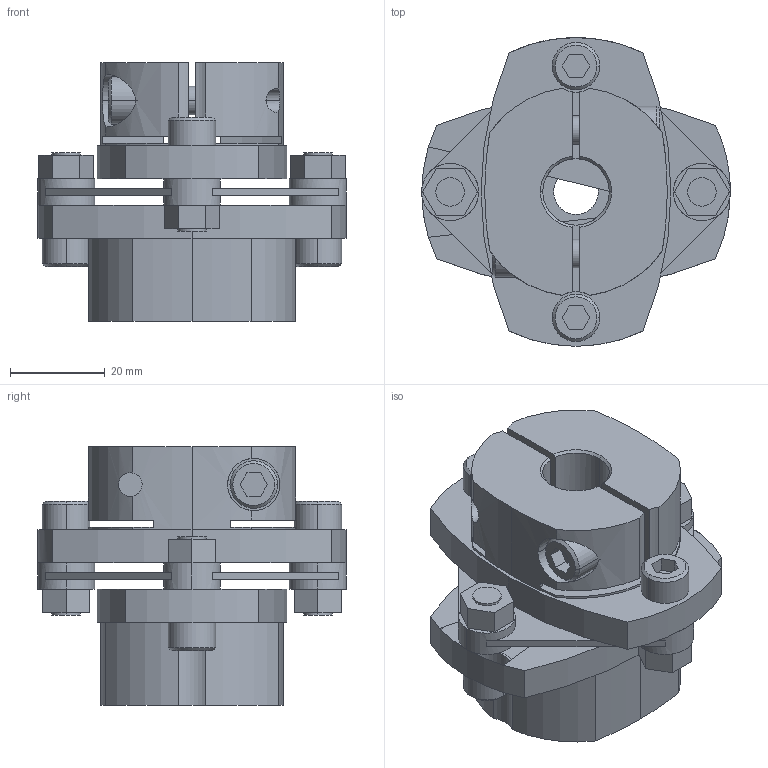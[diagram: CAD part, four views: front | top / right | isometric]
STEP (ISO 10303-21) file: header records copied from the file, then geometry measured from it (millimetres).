
FILE_DESCRIPTION((''),'2;1');
FILE_NAME('LCS-65M-11L亊14B.stp','2011-08-20T15:45:29',(''),(''),'AutoCAD STEP 2000i','AutoCAD 2000i',', , ');
FILE_SCHEMA(('CONFIG_CONTROL_DESIGN'));
Length unit declared in the file: millimetre
Products named in the file (6): LCS-65M-11L×14B; 忣兜1; LC65M-L011; LC65-B014-1; LC65-B014; LCS65-ITA
Assembly tree (5 placements, depth 2):
  LCS-65M-11L×14B
    忣兜1
    LC65M-L011
    LC65-B014-1
    LC65-B014
    LCS65-ITA
Bounding box: 65 x 65 x 54.5 mm (x, y, z)
Volume: 79083.6 mm3; surface area: 26928.2 mm2
Topology: 1 solids, 1 shells, 228 faces, 602 edges, 394 vertices
Faces by surface type: plane 115, cylinder 92, cone 21
Entity records: 7591 total; most frequent: CARTESIAN_POINT 1570, DIRECTION 1286, ORIENTED_EDGE 1204, EDGE_CURVE 602, AXIS2_PLACEMENT_3D 472, VERTEX_POINT 394, VECTOR 342, LINE 342
